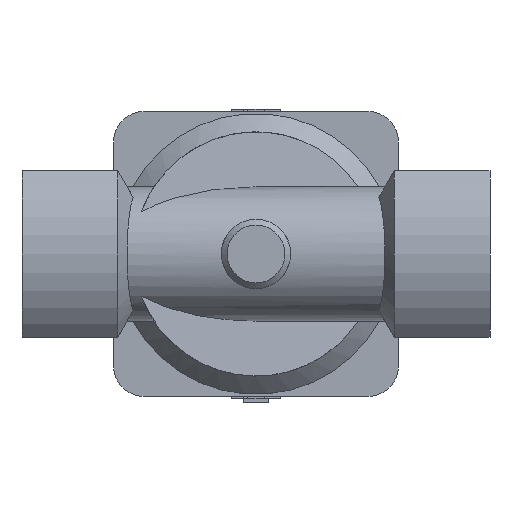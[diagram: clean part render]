
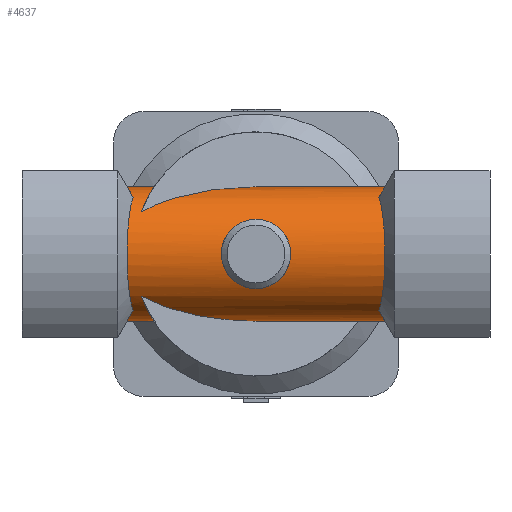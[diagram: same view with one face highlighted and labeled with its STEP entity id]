
A CAD part, front view. The second image highlights one B-rep face of the part: STEP entity #4637.
In plain terms, the highlighted cylindrical face has radius 16.5 mm (diameter 33 mm), a partial arc.
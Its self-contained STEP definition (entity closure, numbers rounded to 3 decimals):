
#430=LINE('',#7520,#852);
#431=LINE('',#7532,#853);
#432=LINE('',#7551,#854);
#433=LINE('',#7564,#855);
#852=VECTOR('',#6108,1000.);
#853=VECTOR('',#6111,1000.);
#854=VECTOR('',#6116,1000.);
#855=VECTOR('',#6119,1000.);
#1274=B_SPLINE_CURVE_WITH_KNOTS('',3,(#7505,#7506,#7507,#7508,#7509,#7510,
#7511,#7512,#7513,#7514,#7515,#7516),.UNSPECIFIED.,.F.,.F.,(4,1,1,1,1,1,
1,1,1,4),(0.001,0.009,0.014,0.016,
0.018,0.022,0.024,0.026,
0.03,0.034),.UNSPECIFIED.);
#1275=B_SPLINE_CURVE_WITH_KNOTS('',3,(#7522,#7523,#7524,#7525,#7526,#7527,
#7528),.UNSPECIFIED.,.F.,.F.,(4,1,1,1,4),(0.,0.004,
0.007,0.011,0.015),.UNSPECIFIED.);
#1276=B_SPLINE_CURVE_WITH_KNOTS('',3,(#7536,#7537,#7538,#7539,#7540,#7541,
#7542,#7543,#7544,#7545,#7546,#7547),.UNSPECIFIED.,.F.,.F.,(4,1,1,1,1,1,
1,1,1,4),(0.001,0.009,0.014,0.016,
0.018,0.022,0.024,0.026,
0.03,0.034),.UNSPECIFIED.);
#1277=B_SPLINE_CURVE_WITH_KNOTS('',3,(#7555,#7556,#7557,#7558,#7559,#7560,
#7561,#7562),.UNSPECIFIED.,.F.,.F.,(4,1,1,1,1,4),(0.002,0.006,
0.009,0.011,0.013,0.017),
 .UNSPECIFIED.);
#1278=B_SPLINE_CURVE_WITH_KNOTS('',3,(#7565,#7566,#7567,#7568,#7569,#7570,
#7571,#7572,#7573,#7574,#7575,#7576,#7577,#7578,#7579,#7580,#7581,#7582,
#7583,#7584),.UNSPECIFIED.,.T.,.F.,(1,1,1,1,1,1,1,1,1,1,1,1,1,1,1,1,1,1,
1,1,1,1,1,1),(-0.007,-0.003,-0.002,
0.,0.003,0.007,0.01,0.014,
0.017,0.02,0.024,0.027,
0.03,0.034,0.037,0.041,
0.044,0.047,0.051,0.052,
0.054,0.057,0.061,0.064),
 .UNSPECIFIED.);
#1329=ORIENTED_EDGE('',*,*,#2671,.F.);
#1330=ORIENTED_EDGE('',*,*,#2672,.F.);
#1331=ORIENTED_EDGE('',*,*,#2673,.F.);
#1332=ORIENTED_EDGE('',*,*,#2674,.F.);
#1333=ORIENTED_EDGE('',*,*,#2675,.T.);
#1334=ORIENTED_EDGE('',*,*,#2676,.F.);
#1335=ORIENTED_EDGE('',*,*,#2677,.F.);
#1336=ORIENTED_EDGE('',*,*,#2678,.T.);
#1337=ORIENTED_EDGE('',*,*,#2679,.T.);
#1338=ORIENTED_EDGE('',*,*,#2680,.T.);
#1339=ORIENTED_EDGE('',*,*,#2681,.F.);
#1340=ORIENTED_EDGE('',*,*,#2682,.F.);
#1341=ORIENTED_EDGE('',*,*,#2683,.T.);
#1342=ORIENTED_EDGE('',*,*,#2684,.F.);
#1343=ORIENTED_EDGE('',*,*,#2685,.F.);
#2671=EDGE_CURVE('',#3342,#3343,#3805,.F.);
#2672=EDGE_CURVE('',#3344,#3342,#1274,.T.);
#2673=EDGE_CURVE('',#3345,#3344,#3806,.F.);
#2674=EDGE_CURVE('',#3346,#3345,#430,.T.);
#2675=EDGE_CURVE('',#3346,#3347,#1275,.T.);
#2676=EDGE_CURVE('',#3348,#3347,#3807,.F.);
#2677=EDGE_CURVE('',#3349,#3348,#431,.T.);
#2678=EDGE_CURVE('',#3349,#3350,#3808,.T.);
#2679=EDGE_CURVE('',#3350,#3351,#1276,.T.);
#2680=EDGE_CURVE('',#3351,#3352,#3809,.T.);
#2681=EDGE_CURVE('',#3353,#3352,#432,.T.);
#2682=EDGE_CURVE('',#3354,#3353,#3810,.F.);
#2683=EDGE_CURVE('',#3354,#3355,#1277,.T.);
#2684=EDGE_CURVE('',#3343,#3355,#433,.T.);
#2685=EDGE_CURVE('',#3356,#3356,#1278,.T.);
#3342=VERTEX_POINT('',#7503);
#3343=VERTEX_POINT('',#7504);
#3344=VERTEX_POINT('',#7517);
#3345=VERTEX_POINT('',#7519);
#3346=VERTEX_POINT('',#7521);
#3347=VERTEX_POINT('',#7529);
#3348=VERTEX_POINT('',#7531);
#3349=VERTEX_POINT('',#7533);
#3350=VERTEX_POINT('',#7535);
#3351=VERTEX_POINT('',#7548);
#3352=VERTEX_POINT('',#7550);
#3353=VERTEX_POINT('',#7552);
#3354=VERTEX_POINT('',#7554);
#3355=VERTEX_POINT('',#7563);
#3356=VERTEX_POINT('',#7585);
#3805=ELLIPSE('',#5613,19.053,16.5);
#3806=ELLIPSE('',#5614,19.053,16.5);
#3807=ELLIPSE('',#5615,39.788,16.5);
#3808=ELLIPSE('',#5616,19.053,16.5);
#3809=ELLIPSE('',#5617,19.053,16.5);
#3810=ELLIPSE('',#5618,39.788,16.5);
#3821=EDGE_LOOP('',(#1329,#1330,#1331,#1332,#1333,#1334,#1335,#1336,#1337,
#1338,#1339,#1340,#1341,#1342));
#3822=EDGE_LOOP('',(#1343));
#4191=FACE_BOUND('',#3821,.T.);
#4192=FACE_BOUND('',#3822,.T.);
#4561=CYLINDRICAL_SURFACE('',#5612,16.5);
#4637=ADVANCED_FACE('',(#4191,#4192),#4561,.T.);
#5612=AXIS2_PLACEMENT_3D('',#7501,#6102,#6103);
#5613=AXIS2_PLACEMENT_3D('',#7502,#6104,#6105);
#5614=AXIS2_PLACEMENT_3D('',#7518,#6106,#6107);
#5615=AXIS2_PLACEMENT_3D('',#7530,#6109,#6110);
#5616=AXIS2_PLACEMENT_3D('',#7534,#6112,#6113);
#5617=AXIS2_PLACEMENT_3D('',#7549,#6114,#6115);
#5618=AXIS2_PLACEMENT_3D('',#7553,#6117,#6118);
#6102=DIRECTION('',(-1.,0.,0.));
#6103=DIRECTION('',(0.,0.,1.));
#6104=DIRECTION('',(0.866,0.,0.5));
#6105=DIRECTION('',(-0.5,0.,0.866));
#6106=DIRECTION('',(0.866,0.,-0.5));
#6107=DIRECTION('',(-0.5,0.,-0.866));
#6108=DIRECTION('',(-1.,0.,0.));
#6109=DIRECTION('',(0.415,-0.91,0.));
#6110=DIRECTION('',(-0.91,-0.415,0.));
#6111=DIRECTION('',(-1.,0.,0.));
#6112=DIRECTION('',(-0.866,0.,-0.5));
#6113=DIRECTION('',(-0.5,0.,0.866));
#6114=DIRECTION('',(-0.866,0.,0.5));
#6115=DIRECTION('',(-0.5,0.,-0.866));
#6116=DIRECTION('',(1.,0.,0.));
#6117=DIRECTION('',(0.415,-0.91,0.));
#6118=DIRECTION('',(-0.91,-0.415,0.));
#6119=DIRECTION('',(1.,0.,0.));
#7501=CARTESIAN_POINT('',(35.,0.,0.));
#7502=CARTESIAN_POINT('',(-22.164,0.,0.));
#7503=CARTESIAN_POINT('',(-30.223,-8.798,13.959));
#7504=CARTESIAN_POINT('',(-31.691,0.,16.5));
#7505=CARTESIAN_POINT('',(-30.223,-8.798,-13.959));
#7506=CARTESIAN_POINT('',(-30.692,-11.121,-12.494));
#7507=CARTESIAN_POINT('',(-31.245,-14.054,-9.414));
#7508=CARTESIAN_POINT('',(-31.579,-15.883,-4.831));
#7509=CARTESIAN_POINT('',(-31.674,-16.409,-2.113));
#7510=CARTESIAN_POINT('',(-31.707,-16.589,0.702));
#7511=CARTESIAN_POINT('',(-31.644,-16.239,3.461));
#7512=CARTESIAN_POINT('',(-31.485,-15.365,6.133));
#7513=CARTESIAN_POINT('',(-31.267,-14.183,8.629));
#7514=CARTESIAN_POINT('',(-30.878,-12.111,11.463));
#7515=CARTESIAN_POINT('',(-30.459,-9.968,13.221));
#7516=CARTESIAN_POINT('',(-30.223,-8.798,13.959));
#7517=CARTESIAN_POINT('',(-30.223,-8.798,-13.959));
#7518=CARTESIAN_POINT('',(-22.164,0.,0.));
#7519=CARTESIAN_POINT('',(-31.691,0.,-16.5));
#7520=CARTESIAN_POINT('',(35.,0.,-16.5));
#7521=CARTESIAN_POINT('',(-25.055,0.,-16.5));
#7522=CARTESIAN_POINT('',(-25.055,0.,-16.5));
#7523=CARTESIAN_POINT('',(-25.055,-1.27,-16.5));
#7524=CARTESIAN_POINT('',(-25.248,-3.75,-16.212));
#7525=CARTESIAN_POINT('',(-26.023,-7.272,-14.965));
#7526=CARTESIAN_POINT('',(-27.071,-10.361,-13.009));
#7527=CARTESIAN_POINT('',(-27.8,-12.065,-11.32));
#7528=CARTESIAN_POINT('',(-28.148,-12.828,-10.378));
#7529=CARTESIAN_POINT('',(-28.148,-12.828,-10.378));
#7530=CARTESIAN_POINT('',(0.,0.,0.));
#7531=CARTESIAN_POINT('',(0.,0.,-16.5));
#7532=CARTESIAN_POINT('',(35.,0.,-16.5));
#7533=CARTESIAN_POINT('',(31.691,0.,-16.5));
#7534=CARTESIAN_POINT('',(22.164,0.,0.));
#7535=CARTESIAN_POINT('',(30.223,-8.798,-13.959));
#7536=CARTESIAN_POINT('',(30.223,-8.798,-13.959));
#7537=CARTESIAN_POINT('',(30.692,-11.121,-12.494));
#7538=CARTESIAN_POINT('',(31.245,-14.054,-9.414));
#7539=CARTESIAN_POINT('',(31.579,-15.883,-4.831));
#7540=CARTESIAN_POINT('',(31.674,-16.409,-2.113));
#7541=CARTESIAN_POINT('',(31.707,-16.589,0.702));
#7542=CARTESIAN_POINT('',(31.644,-16.239,3.461));
#7543=CARTESIAN_POINT('',(31.485,-15.365,6.133));
#7544=CARTESIAN_POINT('',(31.267,-14.183,8.629));
#7545=CARTESIAN_POINT('',(30.878,-12.111,11.463));
#7546=CARTESIAN_POINT('',(30.459,-9.968,13.221));
#7547=CARTESIAN_POINT('',(30.223,-8.798,13.959));
#7548=CARTESIAN_POINT('',(30.223,-8.798,13.959));
#7549=CARTESIAN_POINT('',(22.164,0.,0.));
#7550=CARTESIAN_POINT('',(31.691,0.,16.5));
#7551=CARTESIAN_POINT('',(-35.,0.,16.5));
#7552=CARTESIAN_POINT('',(0.,0.,16.5));
#7553=CARTESIAN_POINT('',(0.,0.,0.));
#7554=CARTESIAN_POINT('',(-28.148,-12.828,10.378));
#7555=CARTESIAN_POINT('',(-28.148,-12.828,10.378));
#7556=CARTESIAN_POINT('',(-27.803,-12.07,11.314));
#7557=CARTESIAN_POINT('',(-27.07,-10.36,13.012));
#7558=CARTESIAN_POINT('',(-26.199,-7.785,14.637));
#7559=CARTESIAN_POINT('',(-25.64,-5.537,15.58));
#7560=CARTESIAN_POINT('',(-25.199,-3.129,16.285));
#7561=CARTESIAN_POINT('',(-25.055,-1.272,16.5));
#7562=CARTESIAN_POINT('',(-25.055,0.,16.5));
#7563=CARTESIAN_POINT('',(-25.055,0.,16.5));
#7564=CARTESIAN_POINT('',(-35.,0.,16.5));
#7565=CARTESIAN_POINT('',(-1.723,-14.215,-8.381));
#7566=CARTESIAN_POINT('',(0.581,-14.069,-8.618));
#7567=CARTESIAN_POINT('',(3.386,-14.436,-8.033));
#7568=CARTESIAN_POINT('',(6.151,-15.374,-6.167));
#7569=CARTESIAN_POINT('',(8.028,-16.25,-3.405));
#7570=CARTESIAN_POINT('',(8.733,-16.623,-0.024));
#7571=CARTESIAN_POINT('',(8.04,-16.256,3.384));
#7572=CARTESIAN_POINT('',(6.158,-15.377,6.159));
#7573=CARTESIAN_POINT('',(3.406,-14.441,8.025));
#7574=CARTESIAN_POINT('',(0.032,-13.995,8.733));
#7575=CARTESIAN_POINT('',(-3.373,-14.43,8.044));
#7576=CARTESIAN_POINT('',(-6.143,-15.371,6.175));
#7577=CARTESIAN_POINT('',(-8.027,-16.249,3.41));
#7578=CARTESIAN_POINT('',(-8.733,-16.623,0.025));
#7579=CARTESIAN_POINT('',(-8.043,-16.258,-3.378));
#7580=CARTESIAN_POINT('',(-6.159,-15.375,-6.164));
#7581=CARTESIAN_POINT('',(-3.845,-14.595,-7.72));
#7582=CARTESIAN_POINT('',(-1.723,-14.215,-8.381));
#7583=CARTESIAN_POINT('',(0.581,-14.069,-8.618));
#7584=CARTESIAN_POINT('',(3.386,-14.436,-8.033));
#7585=CARTESIAN_POINT('',(0.,-14.142,-8.5));
